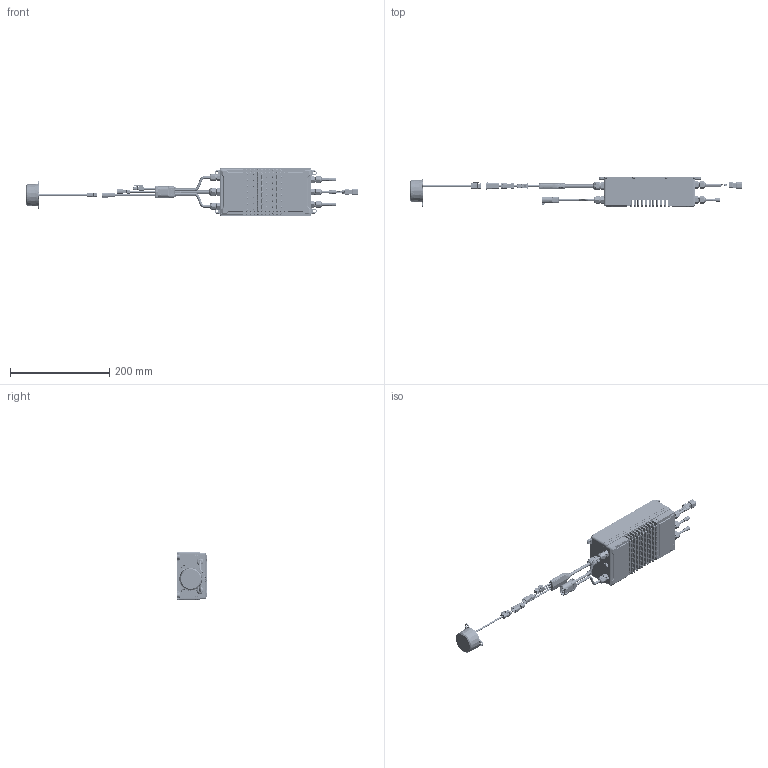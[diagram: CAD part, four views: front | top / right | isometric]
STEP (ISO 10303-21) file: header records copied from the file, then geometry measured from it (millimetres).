
FILE_DESCRIPTION((''),'2;1');
FILE_NAME('HW5122-ZC_ASM','2024-10-16T19:41:32',('221126'),(''),'CREO PARAMETRIC BY PTC INC, 2021284','CREO PARAMETRIC BY PTC INC, 2021284','');
FILE_SCHEMA(('CONFIG_CONTROL_DESIGN'));
Products named in the file (11): MK-4-1_1_1_1_1; MK-4-1_1_1_1_2; MK-4-1_1_1_1_3; MK-4-1_1_1_1_ASM; MK-4-1_1_2_1; MK-4-1_1_3_1; MK-4-1_1_12_1; MK-4-1_1_ASM_1_ASM; HW5122-DT_ASM_1_ASM; HW5122-000; HW5122-ZC_ASM
Assembly tree (10 placements, depth 5):
  HW5122-ZC_ASM
    HW5122-DT_ASM_1_ASM
      MK-4-1_1_ASM_1_ASM
        MK-4-1_1_1_1_ASM
          MK-4-1_1_1_1_1
          MK-4-1_1_1_1_2
          MK-4-1_1_1_1_3
        MK-4-1_1_2_1
        MK-4-1_1_3_1
        MK-4-1_1_12_1
    HW5122-000
Bounding box: 668.11 x 60.17 x 98 mm (x, y, z)
Volume: 971469.8 mm3; surface area: 246306 mm2
Topology: 7 solids, 55 shells, 9989 faces, 26443 edges, 16961 vertices
Faces by surface type: plane 5075, cylinder 2433, cone 1004, extrusion 548, bspline 445, torus 422, sphere 62
Entity records: 345861 total; most frequent: CARTESIAN_POINT 101101, ORIENTED_EDGE 52678, DIRECTION 48008, EDGE_CURVE 26341, VERTEX_POINT 16961, VECTOR 16468, LINE 15920, AXIS2_PLACEMENT_3D 15770
